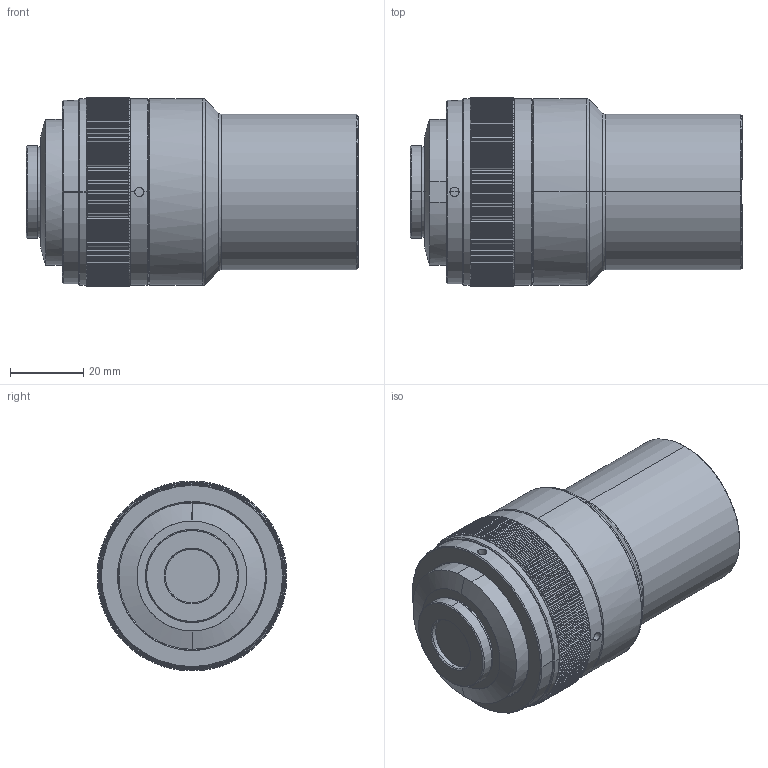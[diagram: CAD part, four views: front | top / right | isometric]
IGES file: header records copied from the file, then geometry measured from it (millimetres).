
Start section: SolidWorks IGES file using analytic representation for surfaces
Global section: file name: E:\芞祧\噩芛\LASER\LASER-127V1\楷諦誧3D\LASER-127V1.IGS; native system: SolidWorks 2017; preprocessor: SolidWorks 2017; author: gc; date: 230208.095457; units: millimetre
Bounding box: 90.56 x 51.8 x 51.8 mm (x, y, z)
Surface area: 18442.5 mm2 (no closed solid volume)
Topology: 0 solids, 0 shells, 631 faces, 5284 edges, 5284 vertices
Faces by surface type: bspline 385, revolution 246
